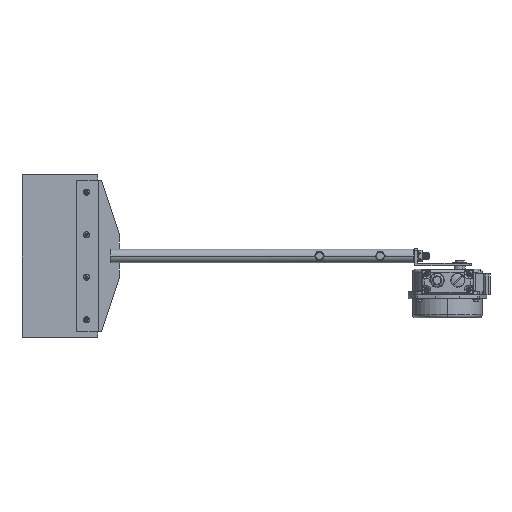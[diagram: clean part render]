
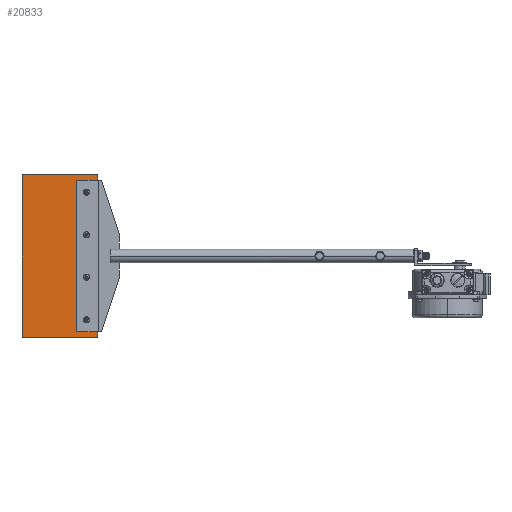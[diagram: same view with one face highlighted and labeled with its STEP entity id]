
A CAD part, front view. The second image highlights one B-rep face of the part: STEP entity #20833.
In plain terms, the highlighted planar face has unit normal (0, -1, 0) as drawn and (0, 0, 1) by its records, which use the part's own axes.
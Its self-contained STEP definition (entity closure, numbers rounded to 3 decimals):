
#623 = LINE ( 'NONE', #9789, #12908 ) ;
#640 = ORIENTED_EDGE ( 'NONE', *, *, #7409, .F. ) ;
#673 = VERTEX_POINT ( 'NONE', #11563 ) ;
#821 = ORIENTED_EDGE ( 'NONE', *, *, #11609, .T. ) ;
#911 = VERTEX_POINT ( 'NONE', #15158 ) ;
#1003 = FACE_OUTER_BOUND ( 'NONE', #27487, .T. ) ;
#2366 = EDGE_CURVE ( 'NONE', #911, #13608, #8815, .T. ) ;
#2378 = CARTESIAN_POINT ( 'NONE',  ( 0., -133.5, 6.4 ) ) ;
#2916 = CARTESIAN_POINT ( 'NONE',  ( -555., 125., 6.4 ) ) ;
#3751 = EDGE_CURVE ( 'NONE', #13637, #28299, #25866, .T. ) ;
#5194 = CARTESIAN_POINT ( 'NONE',  ( -520., 0., 6.4 ) ) ;
#5387 = DIRECTION ( 'NONE',  ( 0., 1., 0. ) ) ;
#5411 = VERTEX_POINT ( 'NONE', #2916 ) ;
#5753 = LINE ( 'NONE', #14950, #23786 ) ;
#5801 = EDGE_CURVE ( 'NONE', #911, #673, #623, .T. ) ;
#7325 = CARTESIAN_POINT ( 'NONE',  ( -520., -133.5, 6.4 ) ) ;
#7409 = EDGE_CURVE ( 'NONE', #28299, #28477, #23065, .T. ) ;
#7433 = DIRECTION ( 'NONE',  ( 0., -1., 0. ) ) ;
#7805 = CARTESIAN_POINT ( 'NONE',  ( -555., -125., 6.4 ) ) ;
#7912 = DIRECTION ( 'NONE',  ( -1., 0., 0. ) ) ;
#8443 = ORIENTED_EDGE ( 'NONE', *, *, #12679, .T. ) ;
#8494 = VECTOR ( 'NONE', #27249, 1000. ) ;
#8815 = LINE ( 'NONE', #18044, #8494 ) ;
#9789 = CARTESIAN_POINT ( 'NONE',  ( 0., 133.5, 6.4 ) ) ;
#10000 = VECTOR ( 'NONE', #14389, 1000. ) ;
#10165 = PLANE ( 'NONE',  #22478 ) ;
#10832 = LINE ( 'NONE', #20091, #17063 ) ;
#11550 = DIRECTION ( 'NONE',  ( -1., 0., 0. ) ) ;
#11563 = CARTESIAN_POINT ( 'NONE',  ( -645., 133.5, 6.4 ) ) ;
#11609 = EDGE_CURVE ( 'NONE', #16557, #5411, #16860, .T. ) ;
#12330 = CARTESIAN_POINT ( 'NONE',  ( -520., 125., 6.4 ) ) ;
#12679 = EDGE_CURVE ( 'NONE', #5411, #13608, #5753, .T. ) ;
#12908 = VECTOR ( 'NONE', #19026, 1000. ) ;
#13608 = VERTEX_POINT ( 'NONE', #12330 ) ;
#13637 = VERTEX_POINT ( 'NONE', #15150 ) ;
#14389 = DIRECTION ( 'NONE',  ( 0., -1., 0. ) ) ;
#14950 = CARTESIAN_POINT ( 'NONE',  ( 0., 125., 6.4 ) ) ;
#15150 = CARTESIAN_POINT ( 'NONE',  ( -520., -125., 6.4 ) ) ;
#15158 = CARTESIAN_POINT ( 'NONE',  ( -520., 133.5, 6.4 ) ) ;
#16557 = VERTEX_POINT ( 'NONE', #7805 ) ;
#16860 = LINE ( 'NONE', #26063, #29047 ) ;
#17063 = VECTOR ( 'NONE', #29285, 1000. ) ;
#17503 = ORIENTED_EDGE ( 'NONE', *, *, #5801, .T. ) ;
#17916 = ORIENTED_EDGE ( 'NONE', *, *, #18849, .F. ) ;
#18044 = CARTESIAN_POINT ( 'NONE',  ( -520., 0., 6.4 ) ) ;
#18849 = EDGE_CURVE ( 'NONE', #16557, #13637, #10832, .T. ) ;
#18929 = LINE ( 'NONE', #28139, #25793 ) ;
#19026 = DIRECTION ( 'NONE',  ( -1., 0., 0. ) ) ;
#19273 = VECTOR ( 'NONE', #11550, 1000. ) ;
#19416 = CARTESIAN_POINT ( 'NONE',  ( 0., 0., 6.4 ) ) ;
#19429 = ORIENTED_EDGE ( 'NONE', *, *, #20021, .T. ) ;
#20021 = EDGE_CURVE ( 'NONE', #673, #28477, #18929, .T. ) ;
#20091 = CARTESIAN_POINT ( 'NONE',  ( 0., -125., 6.4 ) ) ;
#20833 = ADVANCED_FACE ( 'NONE', ( #1003 ), #10165, .F. ) ;
#21844 = ORIENTED_EDGE ( 'NONE', *, *, #2366, .F. ) ;
#22478 = AXIS2_PLACEMENT_3D ( 'NONE', #19416, #28614, #7912 ) ;
#23065 = LINE ( 'NONE', #2378, #19273 ) ;
#23786 = VECTOR ( 'NONE', #24170, 1000. ) ;
#24170 = DIRECTION ( 'NONE',  ( 1., 0., 0. ) ) ;
#25793 = VECTOR ( 'NONE', #7433, 1000. ) ;
#25866 = LINE ( 'NONE', #5194, #10000 ) ;
#26063 = CARTESIAN_POINT ( 'NONE',  ( -555., 0., 6.4 ) ) ;
#26777 = CARTESIAN_POINT ( 'NONE',  ( -645., -133.5, 6.4 ) ) ;
#27249 = DIRECTION ( 'NONE',  ( 0., -1., 0. ) ) ;
#27487 = EDGE_LOOP ( 'NONE', ( #17916, #821, #8443, #21844, #17503, #19429, #640, #29634 ) ) ;
#28139 = CARTESIAN_POINT ( 'NONE',  ( -645., 0., 6.4 ) ) ;
#28299 = VERTEX_POINT ( 'NONE', #7325 ) ;
#28477 = VERTEX_POINT ( 'NONE', #26777 ) ;
#28614 = DIRECTION ( 'NONE',  ( 0., 0., -1. ) ) ;
#29047 = VECTOR ( 'NONE', #5387, 1000. ) ;
#29285 = DIRECTION ( 'NONE',  ( 1., 0., 0. ) ) ;
#29634 = ORIENTED_EDGE ( 'NONE', *, *, #3751, .F. ) ;
